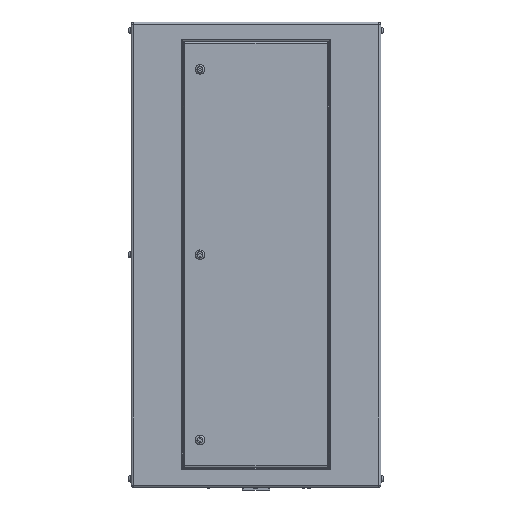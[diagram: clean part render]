
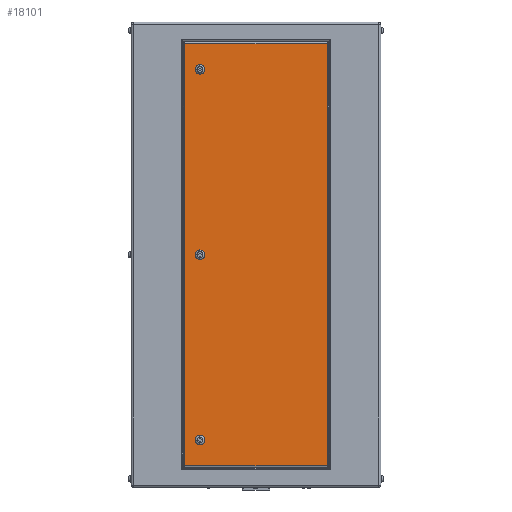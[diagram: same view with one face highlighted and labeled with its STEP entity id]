
A CAD part, left-side view. The second image highlights one B-rep face of the part: STEP entity #18101.
In plain terms, the highlighted planar face has unit normal (-1, 0, 0).
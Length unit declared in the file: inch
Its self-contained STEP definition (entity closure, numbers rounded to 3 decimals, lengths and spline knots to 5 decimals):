
#714 = AXIS2_PLACEMENT_3D ( 'NONE', #22797, #3072, #20180 ) ;
#870 = EDGE_CURVE ( 'NONE', #36630, #15845, #17244, .T. ) ;
#2624 = ORIENTED_EDGE ( 'NONE', *, *, #35145, .T. ) ;
#2958 = EDGE_CURVE ( 'NONE', #35348, #26795, #30570, .T. ) ;
#3072 = DIRECTION ( 'NONE',  ( 1., 0., 0. ) ) ;
#3137 = CIRCLE ( 'NONE', #714, 0.55 ) ;
#3375 = ORIENTED_EDGE ( 'NONE', *, *, #33334, .T. ) ;
#3729 = DIRECTION ( 'NONE',  ( 0., 0., -1. ) ) ;
#3768 = EDGE_CURVE ( 'NONE', #15845, #36630, #28831, .T. ) ;
#3786 = DIRECTION ( 'NONE',  ( 1., 0., 0. ) ) ;
#4136 = CARTESIAN_POINT ( 'NONE',  ( -17., 6.5, -21.5 ) ) ;
#4757 = VERTEX_POINT ( 'NONE', #8396 ) ;
#5297 = EDGE_LOOP ( 'NONE', ( #10013, #17631 ) ) ;
#5680 = CARTESIAN_POINT ( 'NONE',  ( -17., 8.24, 24.49 ) ) ;
#5685 = LINE ( 'NONE', #33958, #27462 ) ;
#7216 = AXIS2_PLACEMENT_3D ( 'NONE', #26935, #3786, #15409 ) ;
#7247 = CARTESIAN_POINT ( 'NONE',  ( -17., 14.5, -24.49 ) ) ;
#7700 = EDGE_LOOP ( 'NONE', ( #3375, #30272 ) ) ;
#8396 = CARTESIAN_POINT ( 'NONE',  ( -17., -8.24, -24.49 ) ) ;
#8555 = EDGE_LOOP ( 'NONE', ( #14218, #37293 ) ) ;
#9715 = FACE_BOUND ( 'NONE', #8555, .T. ) ;
#9862 = VERTEX_POINT ( 'NONE', #5680 ) ;
#9865 = DIRECTION ( 'NONE',  ( 1., 0., 0. ) ) ;
#9946 = LINE ( 'NONE', #7247, #30616 ) ;
#10013 = ORIENTED_EDGE ( 'NONE', *, *, #3768, .T. ) ;
#10480 = CARTESIAN_POINT ( 'NONE',  ( -17., 6.5, -20.95 ) ) ;
#11623 = CARTESIAN_POINT ( 'NONE',  ( -17., 6.5, 0.55 ) ) ;
#12222 = CARTESIAN_POINT ( 'NONE',  ( -17., -8.24, -27. ) ) ;
#13028 = DIRECTION ( 'NONE',  ( 1., 0., 0. ) ) ;
#13615 = VECTOR ( 'NONE', #32044, 39.37008 ) ;
#13932 = EDGE_CURVE ( 'NONE', #28580, #9862, #5685, .T. ) ;
#14218 = ORIENTED_EDGE ( 'NONE', *, *, #30703, .T. ) ;
#14730 = VERTEX_POINT ( 'NONE', #34574 ) ;
#15409 = DIRECTION ( 'NONE',  ( 0., 0., -1. ) ) ;
#15418 = VERTEX_POINT ( 'NONE', #37154 ) ;
#15845 = VERTEX_POINT ( 'NONE', #16674 ) ;
#15928 = CARTESIAN_POINT ( 'NONE',  ( -17., 6.5, -0.55 ) ) ;
#15999 = DIRECTION ( 'NONE',  ( 0., -1., 0. ) ) ;
#16076 = DIRECTION ( 'NONE',  ( 1., 0., 0. ) ) ;
#16529 = ORIENTED_EDGE ( 'NONE', *, *, #13932, .T. ) ;
#16674 = CARTESIAN_POINT ( 'NONE',  ( -17., 6.5, -22.05 ) ) ;
#17244 = CIRCLE ( 'NONE', #28095, 0.55 ) ;
#17372 = AXIS2_PLACEMENT_3D ( 'NONE', #4136, #9865, #21977 ) ;
#17602 = CARTESIAN_POINT ( 'NONE',  ( -17., 6.5, 0. ) ) ;
#17631 = ORIENTED_EDGE ( 'NONE', *, *, #870, .T. ) ;
#18101 = ADVANCED_FACE ( 'NONE', ( #27132, #9715, #21258, #32794 ), #35072, .F. ) ;
#18241 = LINE ( 'NONE', #35265, #13615 ) ;
#18275 = LINE ( 'NONE', #12222, #23726 ) ;
#18734 = ORIENTED_EDGE ( 'NONE', *, *, #37112, .T. ) ;
#18847 = DIRECTION ( 'NONE',  ( 0., 0., -1. ) ) ;
#19094 = DIRECTION ( 'NONE',  ( 0., 0., -1. ) ) ;
#20180 = DIRECTION ( 'NONE',  ( 0., 0., -1. ) ) ;
#20595 = EDGE_CURVE ( 'NONE', #9862, #20758, #18241, .T. ) ;
#20758 = VERTEX_POINT ( 'NONE', #22007 ) ;
#21173 = DIRECTION ( 'NONE',  ( 0., 0., -1. ) ) ;
#21258 = FACE_BOUND ( 'NONE', #7700, .T. ) ;
#21977 = DIRECTION ( 'NONE',  ( 0., 0., -1. ) ) ;
#22007 = CARTESIAN_POINT ( 'NONE',  ( -17., 8.24, -24.49 ) ) ;
#22427 = CARTESIAN_POINT ( 'NONE',  ( -17., 6.5, 0. ) ) ;
#22797 = CARTESIAN_POINT ( 'NONE',  ( -17., 6.5, 21.5 ) ) ;
#23726 = VECTOR ( 'NONE', #23754, 39.37008 ) ;
#23754 = DIRECTION ( 'NONE',  ( 0., 0., 1. ) ) ;
#24822 = AXIS2_PLACEMENT_3D ( 'NONE', #22427, #31106, #18847 ) ;
#26795 = VERTEX_POINT ( 'NONE', #15928 ) ;
#26935 = CARTESIAN_POINT ( 'NONE',  ( -17., 14.5, -27. ) ) ;
#27132 = FACE_BOUND ( 'NONE', #5297, .T. ) ;
#27462 = VECTOR ( 'NONE', #37364, 39.37008 ) ;
#28095 = AXIS2_PLACEMENT_3D ( 'NONE', #29687, #34504, #3729 ) ;
#28580 = VERTEX_POINT ( 'NONE', #32521 ) ;
#28831 = CIRCLE ( 'NONE', #17372, 0.55 ) ;
#29096 = CIRCLE ( 'NONE', #29677, 0.55 ) ;
#29677 = AXIS2_PLACEMENT_3D ( 'NONE', #36519, #16076, #19094 ) ;
#29687 = CARTESIAN_POINT ( 'NONE',  ( -17., 6.5, -21.5 ) ) ;
#30206 = CIRCLE ( 'NONE', #24822, 0.55 ) ;
#30272 = ORIENTED_EDGE ( 'NONE', *, *, #35086, .T. ) ;
#30570 = CIRCLE ( 'NONE', #34836, 0.55 ) ;
#30616 = VECTOR ( 'NONE', #15999, 39.37008 ) ;
#30703 = EDGE_CURVE ( 'NONE', #26795, #35348, #30206, .T. ) ;
#31106 = DIRECTION ( 'NONE',  ( 1., 0., 0. ) ) ;
#31412 = EDGE_LOOP ( 'NONE', ( #18734, #2624, #16529, #35430 ) ) ;
#32044 = DIRECTION ( 'NONE',  ( 0., 0., -1. ) ) ;
#32521 = CARTESIAN_POINT ( 'NONE',  ( -17., -8.24, 24.49 ) ) ;
#32794 = FACE_OUTER_BOUND ( 'NONE', #31412, .T. ) ;
#33334 = EDGE_CURVE ( 'NONE', #15418, #14730, #29096, .T. ) ;
#33958 = CARTESIAN_POINT ( 'NONE',  ( -17., 14.5, 24.49 ) ) ;
#34504 = DIRECTION ( 'NONE',  ( 1., 0., 0. ) ) ;
#34574 = CARTESIAN_POINT ( 'NONE',  ( -17., 6.5, 22.05 ) ) ;
#34836 = AXIS2_PLACEMENT_3D ( 'NONE', #17602, #13028, #21173 ) ;
#35072 = PLANE ( 'NONE',  #7216 ) ;
#35086 = EDGE_CURVE ( 'NONE', #14730, #15418, #3137, .T. ) ;
#35145 = EDGE_CURVE ( 'NONE', #4757, #28580, #18275, .T. ) ;
#35265 = CARTESIAN_POINT ( 'NONE',  ( -17., 8.24, -27. ) ) ;
#35348 = VERTEX_POINT ( 'NONE', #11623 ) ;
#35430 = ORIENTED_EDGE ( 'NONE', *, *, #20595, .T. ) ;
#36519 = CARTESIAN_POINT ( 'NONE',  ( -17., 6.5, 21.5 ) ) ;
#36630 = VERTEX_POINT ( 'NONE', #10480 ) ;
#37112 = EDGE_CURVE ( 'NONE', #20758, #4757, #9946, .T. ) ;
#37154 = CARTESIAN_POINT ( 'NONE',  ( -17., 6.5, 20.95 ) ) ;
#37293 = ORIENTED_EDGE ( 'NONE', *, *, #2958, .T. ) ;
#37364 = DIRECTION ( 'NONE',  ( 0., 1., 0. ) ) ;
